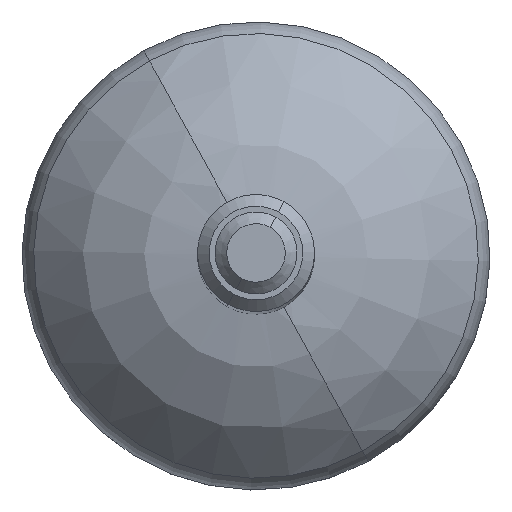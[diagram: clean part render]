
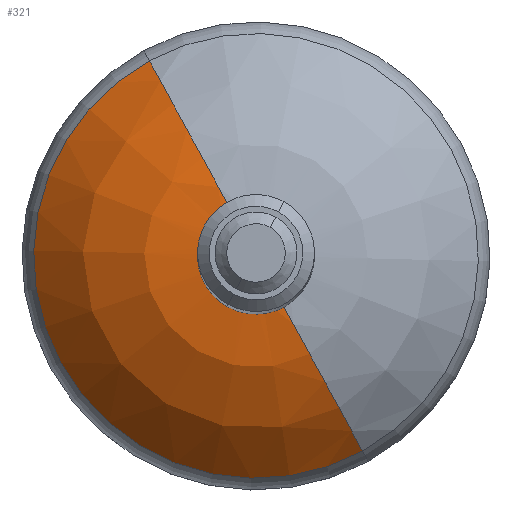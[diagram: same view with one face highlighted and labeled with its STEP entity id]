
A CAD part, top view. The second image highlights one B-rep face of the part: STEP entity #321.
In plain terms, the highlighted face is a revolution surface.
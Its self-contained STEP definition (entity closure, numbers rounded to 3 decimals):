
#311=EDGE_CURVE('',#497,#433,#667,.T.);
#321=ADVANCED_FACE('',(#678),#679,.F.);
#329=EDGE_CURVE('',#690,#631,#691,.T.);
#351=EDGE_CURVE('',#433,#631,#717,.T.);
#373=EDGE_CURVE('',#497,#690,#742,.T.);
#433=VERTEX_POINT('',#799);
#497=VERTEX_POINT('',#883);
#631=VERTEX_POINT('',#1056);
#667=CIRCLE('',#1101,20.0);
#678=FACE_OUTER_BOUND('',#1116,.T.);
#679=SURFACE_OF_REVOLUTION('',#1117,#1118);
#690=VERTEX_POINT('',#1130);
#691=CIRCLE('',#1131,20.0);
#717=CIRCLE('',#1166,3.736);
#742=CIRCLE('',#1217,19.003);
#799=CARTESIAN_POINT('',(-1.791,3.279,14.));
#883=CARTESIAN_POINT('',(-9.111,16.677,5.995));
#1056=CARTESIAN_POINT('',(1.791,-3.279,14.));
#1101=AXIS2_PLACEMENT_3D('',#1642,#1643,#1644);
#1116=EDGE_LOOP('',(#1661,#1662,#1663,#1664));
#1117=B_SPLINE_CURVE_WITH_KNOTS('',4,(#1665,#1666,#1667,#1668,#1669),.UNSPECIFIED.,.F.,.F.,(5,5),(12.847,30.669),.UNSPECIFIED.);
#1118=AXIS1_PLACEMENT('',#1670,#1671);
#1130=CARTESIAN_POINT('',(9.111,-16.677,5.995));
#1131=AXIS2_PLACEMENT_3D('',#1699,#1700,#1701);
#1166=AXIS2_PLACEMENT_3D('',#1746,#1747,#1748);
#1217=AXIS2_PLACEMENT_3D('',#1780,#1781,#1782);
#1642=CARTESIAN_POINT('',(-1.433,2.624,-5.986));
#1643=DIRECTION('',(0.878,0.479,0.0));
#1644=DIRECTION('',(0.479,-0.878,0.0));
#1661=ORIENTED_EDGE('',*,*,#329,.T.);
#1662=ORIENTED_EDGE('',*,*,#351,.F.);
#1663=ORIENTED_EDGE('',*,*,#311,.F.);
#1664=ORIENTED_EDGE('',*,*,#373,.T.);
#1665=CARTESIAN_POINT('',(-9.111,16.677,5.995));
#1666=CARTESIAN_POINT('',(-7.831,14.335,9.563));
#1667=CARTESIAN_POINT('',(-6.04,11.056,12.342));
#1668=CARTESIAN_POINT('',(-3.926,7.186,13.833));
#1669=CARTESIAN_POINT('',(-1.791,3.279,14.));
#1670=CARTESIAN_POINT('',(0.0,0.0,5.995));
#1671=DIRECTION('',(-0.0,-0.0,-1.0));
#1699=CARTESIAN_POINT('',(1.433,-2.624,-5.986));
#1700=DIRECTION('',(-0.878,-0.479,0.0));
#1701=DIRECTION('',(0.479,-0.878,0.0));
#1746=CARTESIAN_POINT('',(0.0,0.0,14.));
#1747=DIRECTION('',(0.0,0.0,1.0));
#1748=DIRECTION('',(1.0,0.0,0.0));
#1780=CARTESIAN_POINT('',(0.0,0.0,5.995));
#1781=DIRECTION('',(0.0,0.0,1.0));
#1782=DIRECTION('',(1.0,0.0,0.0));
